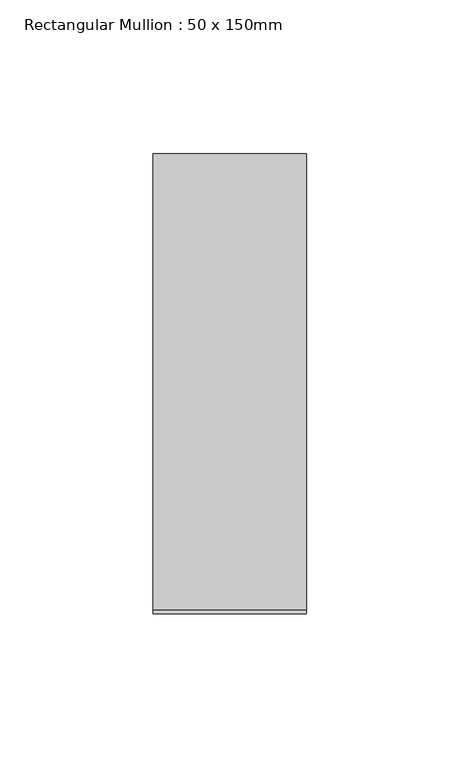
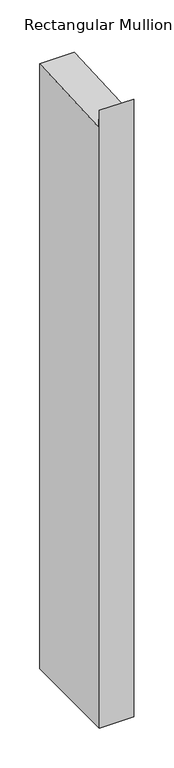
"""IFC4 building model written with IfcOpenShell, lengths in millimetres: member geometry, Rectangular Mullion : 50 x 150mm."""

from ifc_helpers import new_model, si_unit, frame, origin, place, context, project, spatial, polyline, outline, extrude, source, transform, mapped, element, save


def rectangular_mullion_50_x_150mm_326b7c62(model_context):
    return source(origin(), model_context, "Body", "SweptSolid", [
        extrude(outline(polyline([(-75.0, 23.1238267), (-73.6561913, -3.7187304), (75.0, 3.7233876), (75.0, -925.0), (-75.0, -925.0), (-75.0, 23.1238267)])), frame((-50.0, 0.0, 0.0), z_axis=(1.0, 0.0, 0.0), x_axis=(0.0, 1.0, 0.0)), (0.0, 0.0, 1.0), 50.0),
    ])


if __name__ == "__main__":
    model = new_model("IFC4")
    model_context = context("Model", 3, world=origin())
    ifc_project = project(units=[si_unit("LENGTHUNIT", "METRE", prefix="MILLI")], contexts=[model_context])
    site = spatial("IfcSite", under=ifc_project)
    building = spatial("IfcBuilding", under=site)
    placement = place(None, origin())
    rectangular_mullion_50_x_150mm_shape = rectangular_mullion_50_x_150mm_326b7c62(model_context)
    element("IfcMember", 1, ObjectType="Rectangular Mullion : 50 x 150mm", at=placement, inside=building, context=model_context, shape_type="MappedRepresentation", body=[
        mapped(rectangular_mullion_50_x_150mm_shape, transform((0.0, 0.0, 0.0), x_axis=(1.0, 0.0, 0.0), y_axis=(0.0, 1.0, 0.0), z_axis=(0.0, 0.0, 1.0))),
    ])
    save(model, "model.ifc")
